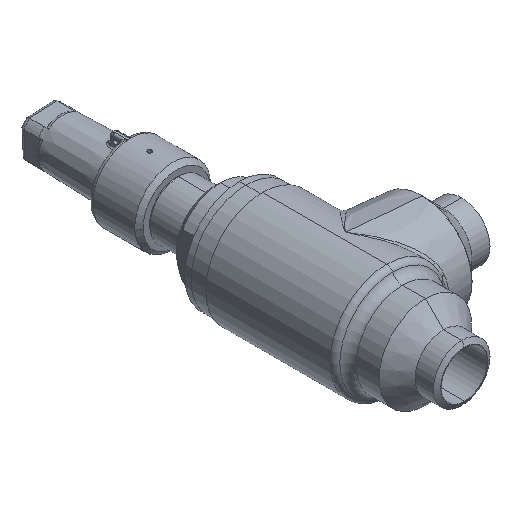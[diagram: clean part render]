
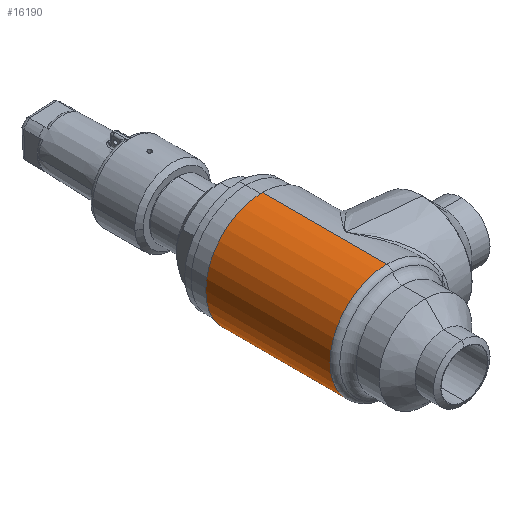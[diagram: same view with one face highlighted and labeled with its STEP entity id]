
A CAD part, isometric view. The second image highlights one B-rep face of the part: STEP entity #16190.
In plain terms, the highlighted cylindrical face has radius 27 mm (diameter 54 mm), a partial arc.
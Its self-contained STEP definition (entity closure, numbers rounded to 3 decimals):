
#59 = EDGE_CURVE ( 'NONE', #3958, #5041, #6423, .T. ) ;
#16464 = FACE_OUTER_BOUND ( 'NONE', #15954, .T. ) ;
#16465 = CYLINDRICAL_SURFACE ( 'NONE', #16466, 27. ) ;
#16466 = AXIS2_PLACEMENT_3D ( 'NONE', #16467, #16472, #16473 ) ;
#16467 = CARTESIAN_POINT ( 'NONE',  ( 0., -69.5, 0. ) ) ;
#16472 = DIRECTION ( 'NONE',  ( 0., 1., 0. ) ) ;
#16473 = DIRECTION ( 'NONE',  ( 0., 0., 1. ) ) ;
#16635 = LINE ( 'NONE', #16636, #16637 ) ;
#16636 = CARTESIAN_POINT ( 'NONE',  ( 0., -69.5, 27. ) ) ;
#16637 = VECTOR ( 'NONE', #16638, 1000. ) ;
#16638 = DIRECTION ( 'NONE',  ( 0., 1., 0. ) ) ;
#421 = ORIENTED_EDGE ( 'NONE', *, *, #59, .T. ) ;
#1092 = ORIENTED_EDGE ( 'NONE', *, *, #3102, .T. ) ;
#1593 = ORIENTED_EDGE ( 'NONE', *, *, #13397, .T. ) ;
#2099 = ORIENTED_EDGE ( 'NONE', *, *, #5255, .F. ) ;
#18908 = CARTESIAN_POINT ( 'NONE',  ( 0., -8., 27. ) ) ;
#3102 = EDGE_CURVE ( 'NONE', #20559, #3958, #16635, .T. ) ;
#3958 = VERTEX_POINT ( 'NONE', #18908 ) ;
#20559 = VERTEX_POINT ( 'NONE', #13375 ) ;
#20979 = CARTESIAN_POINT ( 'NONE',  ( 0., -8., -27. ) ) ;
#21068 = LINE ( 'NONE', #21069, #21070 ) ;
#21069 = CARTESIAN_POINT ( 'NONE',  ( 0., -69.5, -27. ) ) ;
#21070 = VECTOR ( 'NONE', #21071, 1000. ) ;
#21071 = DIRECTION ( 'NONE',  ( 0., 1., 0. ) ) ;
#5041 = VERTEX_POINT ( 'NONE', #20979 ) ;
#5255 = EDGE_CURVE ( 'NONE', #12992, #5041, #21068, .T. ) ;
#6423 = CIRCLE ( 'NONE', #6424, 27. ) ;
#6424 = AXIS2_PLACEMENT_3D ( 'NONE', #6425, #6426, #6427 ) ;
#6425 = CARTESIAN_POINT ( 'NONE',  ( 0., -8., 0. ) ) ;
#6426 = DIRECTION ( 'NONE',  ( 0., -1., 0. ) ) ;
#6427 = DIRECTION ( 'NONE',  ( 0., 0., 1. ) ) ;
#9327 = CARTESIAN_POINT ( 'NONE',  ( 0., -67.084, -27. ) ) ;
#9650 = CIRCLE ( 'NONE', #9670, 27. ) ;
#9670 = AXIS2_PLACEMENT_3D ( 'NONE', #9671, #9672, #9673 ) ;
#9671 = CARTESIAN_POINT ( 'NONE',  ( 0., -67.084, 0. ) ) ;
#9672 = DIRECTION ( 'NONE',  ( 0., 1., 0. ) ) ;
#9673 = DIRECTION ( 'NONE',  ( 0., 0., -1. ) ) ;
#12992 = VERTEX_POINT ( 'NONE', #9327 ) ;
#13375 = CARTESIAN_POINT ( 'NONE',  ( 0., -67.084, 27. ) ) ;
#13397 = EDGE_CURVE ( 'NONE', #12992, #20559, #9650, .T. ) ;
#15954 = EDGE_LOOP ( 'NONE', ( #2099, #1593, #1092, #421 ) ) ;
#16190 = ADVANCED_FACE ( 'NONE', ( #16464 ), #16465, .T. ) ;
